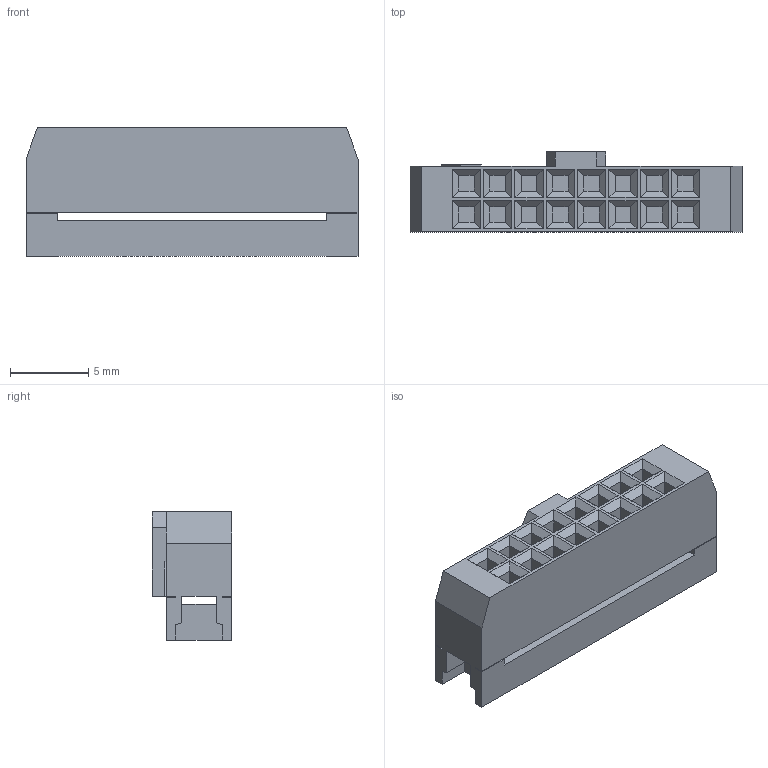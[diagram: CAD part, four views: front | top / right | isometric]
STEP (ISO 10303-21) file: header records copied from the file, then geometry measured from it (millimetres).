
FILE_DESCRIPTION (( 'STEP AP214' ), '1' );
FILE_NAME ('IDC2-16F.STEP', '2011-05-17T10:28:05', ( 'vpeshkov' ), ( 'licard' ), 'SwSTEP 2.0', 'SolidWorks 2009', '' );
FILE_SCHEMA (( 'AUTOMOTIVE_DESIGN' ));
Length unit declared in the file: millimetre
Products named in the file (1): IDC2-16F
Bounding box: 21.2 x 5.1 x 8.2 mm (x, y, z)
Volume: 585 mm3; surface area: 1064.2 mm2
Topology: 1 solids, 1 shells, 175 faces, 469 edges, 290 vertices
Faces by surface type: plane 175
Entity records: 5369 total; most frequent: ORIENTED_EDGE 938, CARTESIAN_POINT 935, DIRECTION 821, EDGE_CURVE 469, VECTOR 469, LINE 469, VERTEX_POINT 290, EDGE_LOOP 207
